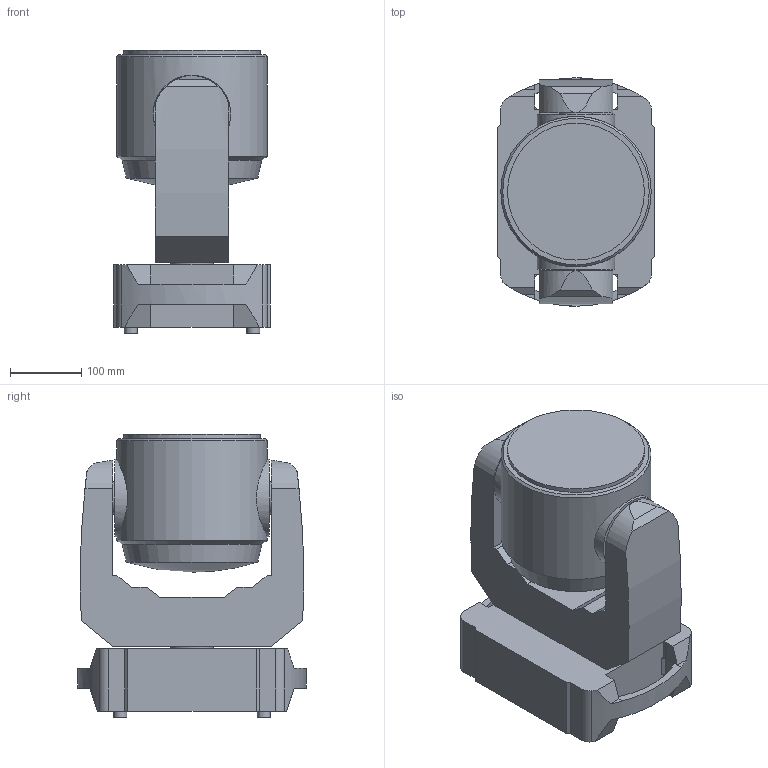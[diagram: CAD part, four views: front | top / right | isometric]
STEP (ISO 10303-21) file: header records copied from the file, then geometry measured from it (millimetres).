
FILE_DESCRIPTION(/* description */ ('Unknown'),/* implementation_level */ '2;1');
FILE_NAME(/* name */ '3D_LEDBeam350_GDTF',/* time_stamp */ '2020-09-08T12:00:11+02:00',/* author */ ('Ing.Rostislav HĂˇba'),/* organization */ ('ROBE lighting'),/* preprocessor_version */ 'ST-DEVELOPER v16.7',/* originating_system */ 'Solid Edge',/* authorisation */ 'Unknown');
FILE_SCHEMA (('AUTOMOTIVE_DESIGN {1 0 10303 214 3 1 1}'));
Length unit declared in the file: millimetre
Products named in the file (4): 3D_LEDBeam350_GDTF; Zakladna; Arm LB350; Head LB350
Assembly tree (3 placements, depth 2):
  3D_LEDBeam350_GDTF
    Zakladna
    Arm LB350
    Head LB350
Bounding box: 219.33 x 320.32 x 397.21 mm (x, y, z)
Volume: 15111171.5 mm3; surface area: 626888.9 mm2
Topology: 3 solids, 3 shells, 132 faces, 351 edges, 235 vertices
Faces by surface type: plane 98, cylinder 30, cone 3, sphere 1
Full cylindrical faces by diameter (mm): 5 x4, 18 x4, 45 x2, 59.6 x1, 60 x1, 108.823 x2, 192 x1, 210.987 x1
Entity records: 4181 total; most frequent: CARTESIAN_POINT 822, DIRECTION 678, ORIENTED_EDGE 650, EDGE_CURVE 325, LINE 232, VECTOR 232, VERTEX_POINT 229, AXIS2_PLACEMENT_3D 223
